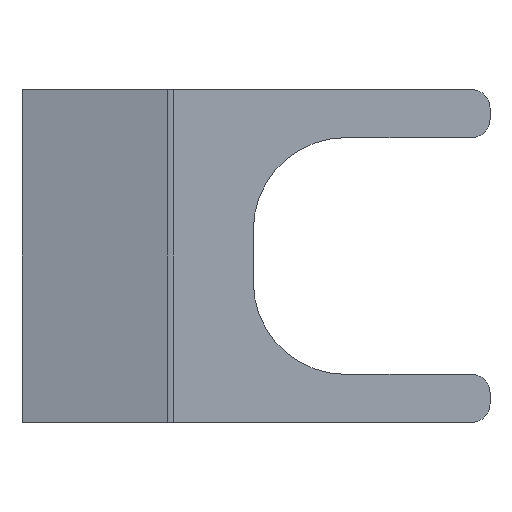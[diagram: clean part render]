
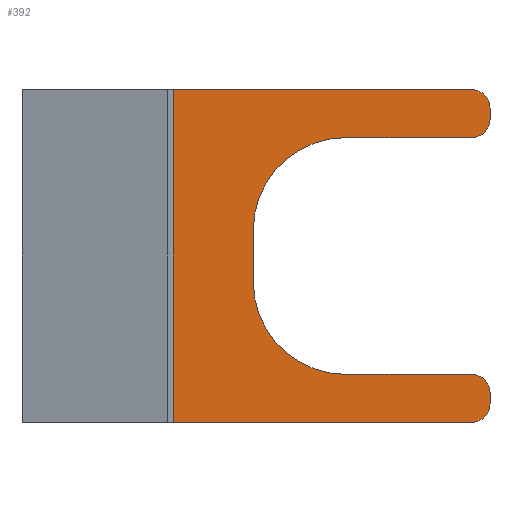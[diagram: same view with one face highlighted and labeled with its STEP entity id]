
A CAD part, front view. The second image highlights one B-rep face of the part: STEP entity #392.
In plain terms, the highlighted planar face has unit normal (0, -1, 0).
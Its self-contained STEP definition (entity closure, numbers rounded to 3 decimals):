
#2 = ORIENTED_EDGE ( 'NONE', *, *, #220, .F. ) ;
#6 = EDGE_CURVE ( 'NONE', #99, #363, #758, .T. ) ;
#8 = CIRCLE ( 'NONE', #441, 25. ) ;
#10 = ORIENTED_EDGE ( 'NONE', *, *, #551, .F. ) ;
#11 = CARTESIAN_POINT ( 'NONE',  ( 25.5, -5., -32. ) ) ;
#21 = DIRECTION ( 'NONE',  ( 0., 1., 0. ) ) ;
#28 = CARTESIAN_POINT ( 'NONE',  ( 59.5, -5., 32. ) ) ;
#52 = CARTESIAN_POINT ( 'NONE',  ( -62.5, -5., -45. ) ) ;
#53 = CARTESIAN_POINT ( 'NONE',  ( 25.5, -5., 32. ) ) ;
#54 = ORIENTED_EDGE ( 'NONE', *, *, #521, .F. ) ;
#56 = CARTESIAN_POINT ( 'NONE',  ( 64.5, -5., 40. ) ) ;
#70 = CARTESIAN_POINT ( 'NONE',  ( 0.5, -5., 7. ) ) ;
#75 = CARTESIAN_POINT ( 'NONE',  ( 59.5, -5., 32. ) ) ;
#76 = ORIENTED_EDGE ( 'NONE', *, *, #524, .F. ) ;
#77 = VECTOR ( 'NONE', #308, 1000. ) ;
#78 = FACE_OUTER_BOUND ( 'NONE', #732, .T. ) ;
#79 = CIRCLE ( 'NONE', #103, 5. ) ;
#81 = CARTESIAN_POINT ( 'NONE',  ( 59.5, -5., -37. ) ) ;
#87 = CARTESIAN_POINT ( 'NONE',  ( 59.5, -5., 37. ) ) ;
#92 = CIRCLE ( 'NONE', #530, 5. ) ;
#93 = EDGE_CURVE ( 'NONE', #161, #679, #469, .T. ) ;
#95 = DIRECTION ( 'NONE',  ( 0., 0., -1. ) ) ;
#99 = VERTEX_POINT ( 'NONE', #53 ) ;
#103 = AXIS2_PLACEMENT_3D ( 'NONE', #156, #227, #109 ) ;
#109 = DIRECTION ( 'NONE',  ( 0., 0., 1. ) ) ;
#132 = CARTESIAN_POINT ( 'NONE',  ( -21.107, -5., 45. ) ) ;
#134 = ORIENTED_EDGE ( 'NONE', *, *, #616, .F. ) ;
#146 = CARTESIAN_POINT ( 'NONE',  ( 25.5, -5., -7. ) ) ;
#155 = DIRECTION ( 'NONE',  ( 0., 0., 1. ) ) ;
#156 = CARTESIAN_POINT ( 'NONE',  ( 59.5, -5., -40. ) ) ;
#157 = VERTEX_POINT ( 'NONE', #292 ) ;
#161 = VERTEX_POINT ( 'NONE', #651 ) ;
#172 = LINE ( 'NONE', #705, #647 ) ;
#177 = ORIENTED_EDGE ( 'NONE', *, *, #728, .F. ) ;
#191 = LINE ( 'NONE', #435, #77 ) ;
#194 = DIRECTION ( 'NONE',  ( -1., 0., 0. ) ) ;
#197 = ORIENTED_EDGE ( 'NONE', *, *, #466, .F. ) ;
#202 = CARTESIAN_POINT ( 'NONE',  ( 0.5, -5., -7. ) ) ;
#209 = DIRECTION ( 'NONE',  ( 0., -1., 0. ) ) ;
#220 = EDGE_CURVE ( 'NONE', #295, #396, #191, .T. ) ;
#227 = DIRECTION ( 'NONE',  ( 0., 1., 0. ) ) ;
#239 = AXIS2_PLACEMENT_3D ( 'NONE', #81, #431, #255 ) ;
#244 = VERTEX_POINT ( 'NONE', #246 ) ;
#246 = CARTESIAN_POINT ( 'NONE',  ( 59.5, -5., 45. ) ) ;
#250 = AXIS2_PLACEMENT_3D ( 'NONE', #621, #753, #373 ) ;
#255 = DIRECTION ( 'NONE',  ( 0., 0., 1. ) ) ;
#258 = DIRECTION ( 'NONE',  ( 0., 0., -1. ) ) ;
#279 = ORIENTED_EDGE ( 'NONE', *, *, #667, .F. ) ;
#286 = VERTEX_POINT ( 'NONE', #75 ) ;
#288 = CARTESIAN_POINT ( 'NONE',  ( -21.107, -5., 40. ) ) ;
#292 = CARTESIAN_POINT ( 'NONE',  ( 64.5, -5., -37. ) ) ;
#295 = VERTEX_POINT ( 'NONE', #11 ) ;
#301 = CIRCLE ( 'NONE', #239, 5. ) ;
#302 = CARTESIAN_POINT ( 'NONE',  ( 64.5, -5., 40. ) ) ;
#305 = ORIENTED_EDGE ( 'NONE', *, *, #442, .F. ) ;
#308 = DIRECTION ( 'NONE',  ( 1., 0., 0. ) ) ;
#314 = ORIENTED_EDGE ( 'NONE', *, *, #561, .F. ) ;
#315 = PLANE ( 'NONE',  #250 ) ;
#323 = CIRCLE ( 'NONE', #389, 5. ) ;
#331 = LINE ( 'NONE', #56, #407 ) ;
#335 = VECTOR ( 'NONE', #680, 1000. ) ;
#341 = DIRECTION ( 'NONE',  ( -1., 0., 0. ) ) ;
#354 = ORIENTED_EDGE ( 'NONE', *, *, #6, .F. ) ;
#363 = VERTEX_POINT ( 'NONE', #70 ) ;
#373 = DIRECTION ( 'NONE',  ( 0., 0., -1. ) ) ;
#374 = VERTEX_POINT ( 'NONE', #302 ) ;
#378 = DIRECTION ( 'NONE',  ( 0., -1., 0. ) ) ;
#381 = DIRECTION ( 'NONE',  ( 0., 0., -1. ) ) ;
#389 = AXIS2_PLACEMENT_3D ( 'NONE', #552, #390, #258 ) ;
#390 = DIRECTION ( 'NONE',  ( 0., 1., 0. ) ) ;
#392 = ADVANCED_FACE ( 'NONE', ( #78 ), #315, .T. ) ;
#396 = VERTEX_POINT ( 'NONE', #555 ) ;
#407 = VECTOR ( 'NONE', #410, 1000. ) ;
#410 = DIRECTION ( 'NONE',  ( 0., 0., -1. ) ) ;
#431 = DIRECTION ( 'NONE',  ( 0., 1., 0. ) ) ;
#434 = CARTESIAN_POINT ( 'NONE',  ( 0.5, -5., -7. ) ) ;
#435 = CARTESIAN_POINT ( 'NONE',  ( 59.5, -5., -32. ) ) ;
#437 = CARTESIAN_POINT ( 'NONE',  ( 64.5, -5., -40. ) ) ;
#441 = AXIS2_PLACEMENT_3D ( 'NONE', #146, #378, #381 ) ;
#442 = EDGE_CURVE ( 'NONE', #244, #374, #323, .T. ) ;
#443 = VECTOR ( 'NONE', #673, 1000. ) ;
#445 = ORIENTED_EDGE ( 'NONE', *, *, #93, .F. ) ;
#458 = CARTESIAN_POINT ( 'NONE',  ( 59.5, -5., -45. ) ) ;
#466 = EDGE_CURVE ( 'NONE', #669, #286, #92, .T. ) ;
#469 = LINE ( 'NONE', #288, #480 ) ;
#480 = VECTOR ( 'NONE', #720, 1000. ) ;
#486 = ORIENTED_EDGE ( 'NONE', *, *, #675, .F. ) ;
#505 = VECTOR ( 'NONE', #194, 1000. ) ;
#514 = ORIENTED_EDGE ( 'NONE', *, *, #591, .F. ) ;
#521 = EDGE_CURVE ( 'NONE', #157, #665, #686, .T. ) ;
#524 = EDGE_CURVE ( 'NONE', #738, #295, #8, .T. ) ;
#530 = AXIS2_PLACEMENT_3D ( 'NONE', #87, #21, #95 ) ;
#538 = VECTOR ( 'NONE', #341, 1000. ) ;
#544 = LINE ( 'NONE', #202, #443 ) ;
#551 = EDGE_CURVE ( 'NONE', #665, #605, #79, .T. ) ;
#552 = CARTESIAN_POINT ( 'NONE',  ( 59.5, -5., 40. ) ) ;
#555 = CARTESIAN_POINT ( 'NONE',  ( 59.5, -5., -32. ) ) ;
#561 = EDGE_CURVE ( 'NONE', #605, #161, #650, .T. ) ;
#591 = EDGE_CURVE ( 'NONE', #374, #669, #331, .T. ) ;
#605 = VERTEX_POINT ( 'NONE', #458 ) ;
#608 = LINE ( 'NONE', #28, #505 ) ;
#616 = EDGE_CURVE ( 'NONE', #679, #244, #172, .T. ) ;
#621 = CARTESIAN_POINT ( 'NONE',  ( 59.5, -5., 40. ) ) ;
#647 = VECTOR ( 'NONE', #712, 1000. ) ;
#650 = LINE ( 'NONE', #52, #538 ) ;
#651 = CARTESIAN_POINT ( 'NONE',  ( -21.107, -5., -45. ) ) ;
#659 = CARTESIAN_POINT ( 'NONE',  ( 64.5, -5., -40. ) ) ;
#665 = VERTEX_POINT ( 'NONE', #659 ) ;
#667 = EDGE_CURVE ( 'NONE', #396, #157, #301, .T. ) ;
#669 = VERTEX_POINT ( 'NONE', #742 ) ;
#673 = DIRECTION ( 'NONE',  ( 0., 0., -1. ) ) ;
#675 = EDGE_CURVE ( 'NONE', #363, #738, #544, .T. ) ;
#679 = VERTEX_POINT ( 'NONE', #132 ) ;
#680 = DIRECTION ( 'NONE',  ( 0., 0., -1. ) ) ;
#686 = LINE ( 'NONE', #437, #335 ) ;
#705 = CARTESIAN_POINT ( 'NONE',  ( -62.5, -5., 45. ) ) ;
#709 = AXIS2_PLACEMENT_3D ( 'NONE', #754, #209, #155 ) ;
#712 = DIRECTION ( 'NONE',  ( 1., 0., 0. ) ) ;
#720 = DIRECTION ( 'NONE',  ( 0., 0., 1. ) ) ;
#728 = EDGE_CURVE ( 'NONE', #286, #99, #608, .T. ) ;
#732 = EDGE_LOOP ( 'NONE', ( #445, #314, #10, #54, #279, #2, #76, #486, #354, #177, #197, #514, #305, #134 ) ) ;
#738 = VERTEX_POINT ( 'NONE', #434 ) ;
#742 = CARTESIAN_POINT ( 'NONE',  ( 64.5, -5., 37. ) ) ;
#753 = DIRECTION ( 'NONE',  ( 0., -1., 0. ) ) ;
#754 = CARTESIAN_POINT ( 'NONE',  ( 25.5, -5., 7. ) ) ;
#758 = CIRCLE ( 'NONE', #709, 25. ) ;
